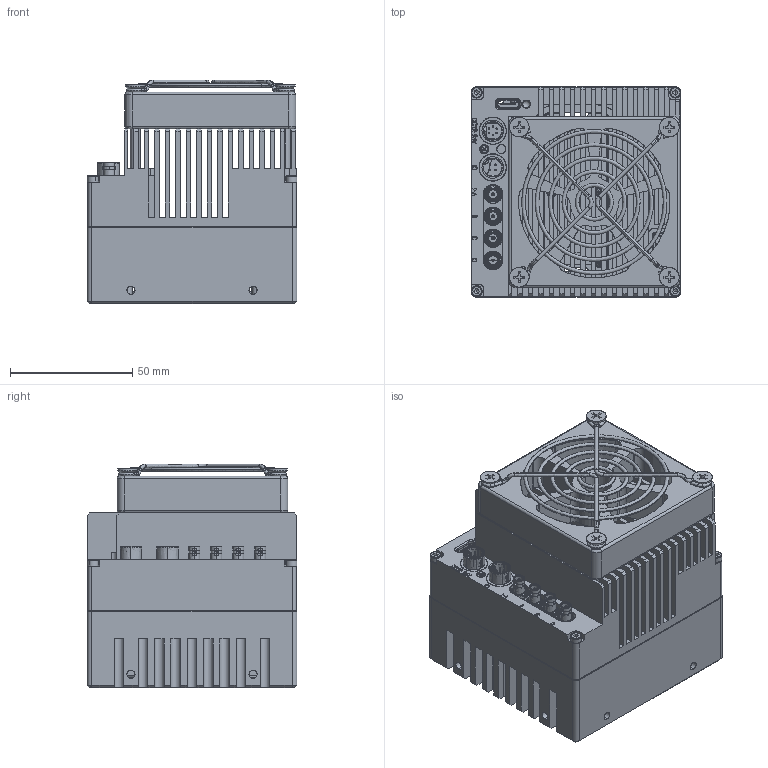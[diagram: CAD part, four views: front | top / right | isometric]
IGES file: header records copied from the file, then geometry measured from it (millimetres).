
Start section: SolidWorks IGES file using analytic representation for surfaces
Global section: file name: C:\Users\user4\Desktop\PH9KCXP12-530KT256-V1.0.0\PH9KCXP12-530KT256-V1.0.0 俋倛喜渡芞\PH9KCXP12-530KT256-V1.0.0.IGS; native system: SolidWorks 2017; preprocessor: SolidWorks 2017; author: user4; date: 240903.160110; units: millimetre
Bounding box: 86 x 86 x 91.59 mm (x, y, z)
Surface area: 116416.4 mm2 (no closed solid volume)
Topology: 0 solids, 0 shells, 1276 faces, 15144 edges, 15116 vertices
Faces by surface type: bspline 691, revolution 585
